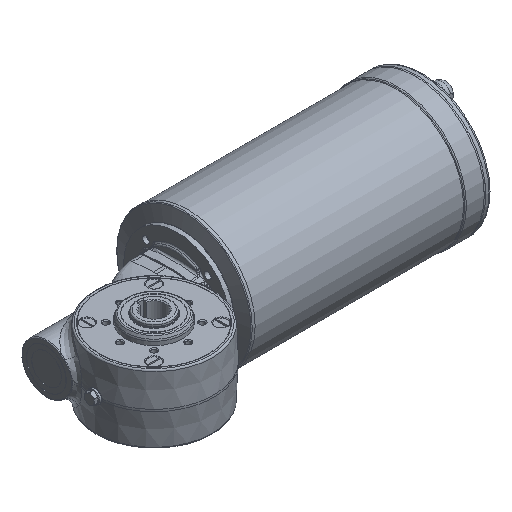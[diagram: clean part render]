
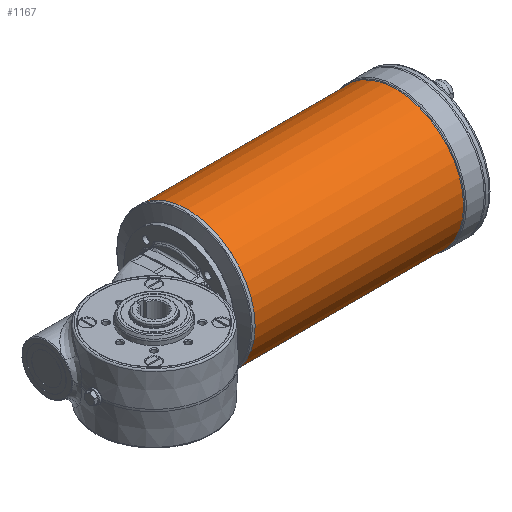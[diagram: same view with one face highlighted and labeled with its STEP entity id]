
A CAD part, isometric view. The second image highlights one B-rep face of the part: STEP entity #1167.
In plain terms, the highlighted cylindrical face has radius 89 mm (diameter 178 mm), a full revolution.
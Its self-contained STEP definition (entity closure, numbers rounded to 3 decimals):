
#1167 = ADVANCED_FACE( '', ( #2797, #2798 ), #2799, .T. );
#2797 = FACE_OUTER_BOUND( '', #9901, .T. );
#2798 = FACE_OUTER_BOUND( '', #9902, .T. );
#2799 = CYLINDRICAL_SURFACE( '', #9903, 89. );
#9901 = EDGE_LOOP( '', ( #17825 ) );
#9902 = EDGE_LOOP( '', ( #17826 ) );
#9903 = AXIS2_PLACEMENT_3D( '', #17827, #17828, #17829 );
#17825 = ORIENTED_EDGE( '', *, *, #20548, .T. );
#17826 = ORIENTED_EDGE( '', *, *, #20979, .T. );
#17827 = CARTESIAN_POINT( '', ( 267.168, 63., 0. ) );
#17828 = DIRECTION( '', ( -1., 0., 0. ) );
#17829 = DIRECTION( '', ( 0., 0., 1. ) );
#20548 = EDGE_CURVE( '', #22516, #22516, #22517, .F. );
#20979 = EDGE_CURVE( '', #23190, #23190, #23191, .T. );
#22516 = VERTEX_POINT( '', #26483 );
#22517 = CIRCLE( '', #26484, 89. );
#23190 = VERTEX_POINT( '', #28478 );
#23191 = CIRCLE( '', #28479, 89. );
#26483 = CARTESIAN_POINT( '', ( 381.209, 63., 89. ) );
#26484 = AXIS2_PLACEMENT_3D( '', #32089, #32090, #32091 );
#28478 = CARTESIAN_POINT( '', ( 107., 63., 89. ) );
#28479 = AXIS2_PLACEMENT_3D( '', #32598, #32599, #32600 );
#32089 = CARTESIAN_POINT( '', ( 381.209, 63., 0. ) );
#32090 = DIRECTION( '', ( 1., 0., 0. ) );
#32091 = DIRECTION( '', ( 0., 0., 1. ) );
#32598 = CARTESIAN_POINT( '', ( 107., 63., 0. ) );
#32599 = DIRECTION( '', ( 1., 0., 0. ) );
#32600 = DIRECTION( '', ( 0., 0., 1. ) );
